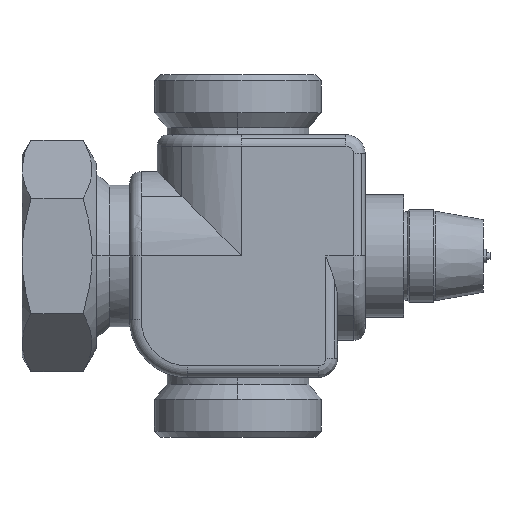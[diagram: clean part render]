
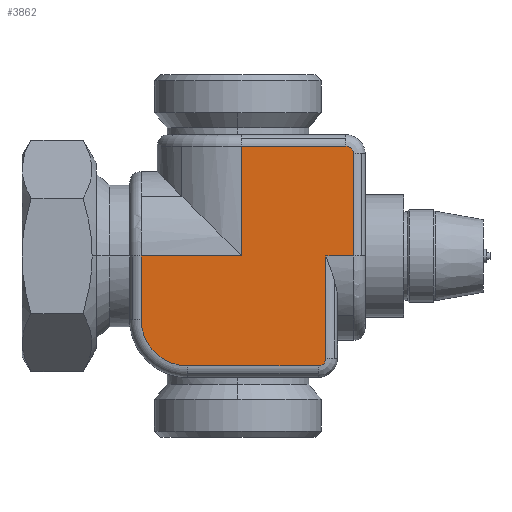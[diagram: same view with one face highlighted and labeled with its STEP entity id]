
A CAD part, left-side view. The second image highlights one B-rep face of the part: STEP entity #3862.
In plain terms, the highlighted planar face has unit normal (-1, 0, 0).
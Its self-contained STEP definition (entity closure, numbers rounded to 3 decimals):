
#3286=CARTESIAN_POINT('',(-24.551,-25.5,52.5));
#3287=VERTEX_POINT('',#3286);
#3299=CARTESIAN_POINT('',(-24.551,-25.5,22.941));
#3300=VERTEX_POINT('',#3299);
#3301=CARTESIAN_POINT('',(-24.551,-25.5,52.5));
#3302=DIRECTION('',(0.0,0.0,-1.0));
#3303=VECTOR('',#3302,29.559);
#3304=LINE('',#3301,#3303);
#3305=EDGE_CURVE('',#3287,#3300,#3304,.T.);
#3370=CARTESIAN_POINT('',(-24.551,-23.266,20.707));
#3371=VERTEX_POINT('',#3370);
#3372=CARTESIAN_POINT('',(-24.551,-23.266,22.941));
#3373=DIRECTION('',(1.,0.,0.));
#3374=DIRECTION('',(0.,-0.707,-0.707));
#3375=AXIS2_PLACEMENT_3D('',#3372,#3373,#3374);
#3376=CIRCLE('',#3375,2.234);
#3377=EDGE_CURVE('',#3300,#3371,#3376,.T.);
#3407=CARTESIAN_POINT('',(-24.551,14.594,20.707));
#3408=VERTEX_POINT('',#3407);
#3409=CARTESIAN_POINT('',(-24.551,-23.266,20.707));
#3410=DIRECTION('',(0.0,1.0,0.0));
#3411=VECTOR('',#3410,37.86);
#3412=LINE('',#3409,#3411);
#3413=EDGE_CURVE('',#3371,#3408,#3412,.T.);
#3430=CARTESIAN_POINT('',(-24.551,27.998,34.111));
#3431=VERTEX_POINT('',#3430);
#3432=CARTESIAN_POINT('',(-24.551,14.594,34.111));
#3433=DIRECTION('',(1.0,0.,0.));
#3434=DIRECTION('',(0.,0.707,-0.707));
#3435=AXIS2_PLACEMENT_3D('',#3432,#3433,#3434);
#3436=CIRCLE('',#3435,13.404);
#3437=EDGE_CURVE('',#3408,#3431,#3436,.T.);
#3461=CARTESIAN_POINT('',(-24.551,27.998,52.5));
#3462=VERTEX_POINT('',#3461);
#3463=CARTESIAN_POINT('',(-24.551,27.998,34.111));
#3464=DIRECTION('',(0.0,0.0,1.0));
#3465=VECTOR('',#3464,18.389);
#3466=LINE('',#3463,#3465);
#3467=EDGE_CURVE('',#3431,#3462,#3466,.T.);
#3803=CARTESIAN_POINT('',(-24.551,1.249,47.159));
#3804=DIRECTION('',(1.0,0.0,0.0));
#3805=DIRECTION('',(0.0,0.0,1.0));
#3806=AXIS2_PLACEMENT_3D('',#3803,#3804,#3805);
#3807=PLANE('',#3806);
#3808=CARTESIAN_POINT('',(-24.551,-33.485,52.5));
#3809=VERTEX_POINT('',#3808);
#3810=CARTESIAN_POINT('',(-24.551,-25.5,52.5));
#3811=DIRECTION('',(0.0,-1.0,0.0));
#3812=VECTOR('',#3811,7.985);
#3813=LINE('',#3810,#3812);
#3814=EDGE_CURVE('',#3287,#3809,#3813,.T.);
#3815=ORIENTED_EDGE('',*,*,#3814,.T.);
#3816=CARTESIAN_POINT('',(-24.551,-33.485,82.059));
#3817=VERTEX_POINT('',#3816);
#3818=CARTESIAN_POINT('',(-24.551,-33.485,82.059));
#3819=DIRECTION('',(0.0,0.0,-1.0));
#3820=VECTOR('',#3819,29.559);
#3821=LINE('',#3818,#3820);
#3822=EDGE_CURVE('',#3817,#3809,#3821,.T.);
#3823=ORIENTED_EDGE('',*,*,#3822,.F.);
#3824=CARTESIAN_POINT('',(-24.551,-31.251,84.293));
#3825=VERTEX_POINT('',#3824);
#3826=CARTESIAN_POINT('',(-24.551,-31.251,82.059));
#3827=DIRECTION('',(1.,0.,0.));
#3828=DIRECTION('',(0.,-0.707,0.707));
#3829=AXIS2_PLACEMENT_3D('',#3826,#3827,#3828);
#3830=CIRCLE('',#3829,2.234);
#3831=EDGE_CURVE('',#3825,#3817,#3830,.T.);
#3832=ORIENTED_EDGE('',*,*,#3831,.F.);
#3833=CARTESIAN_POINT('',(-24.551,-1.098,84.293));
#3834=VERTEX_POINT('',#3833);
#3835=CARTESIAN_POINT('',(-24.551,-1.098,84.293));
#3836=DIRECTION('',(0.0,-1.0,0.0));
#3837=VECTOR('',#3836,30.153);
#3838=LINE('',#3835,#3837);
#3839=EDGE_CURVE('',#3834,#3825,#3838,.T.);
#3840=ORIENTED_EDGE('',*,*,#3839,.F.);
#3841=CARTESIAN_POINT('',(-24.551,-1.098,52.5));
#3842=VERTEX_POINT('',#3841);
#3843=CARTESIAN_POINT('',(-24.551,-1.098,52.5));
#3844=DIRECTION('',(0.0,0.0,1.0));
#3845=VECTOR('',#3844,31.793);
#3846=LINE('',#3843,#3845);
#3847=EDGE_CURVE('',#3842,#3834,#3846,.T.);
#3848=ORIENTED_EDGE('',*,*,#3847,.F.);
#3849=CARTESIAN_POINT('',(-24.551,27.998,52.5));
#3850=DIRECTION('',(0.0,-1.0,0.0));
#3851=VECTOR('',#3850,29.096);
#3852=LINE('',#3849,#3851);
#3853=EDGE_CURVE('',#3462,#3842,#3852,.T.);
#3854=ORIENTED_EDGE('',*,*,#3853,.F.);
#3855=ORIENTED_EDGE('',*,*,#3467,.F.);
#3856=ORIENTED_EDGE('',*,*,#3437,.F.);
#3857=ORIENTED_EDGE('',*,*,#3413,.F.);
#3858=ORIENTED_EDGE('',*,*,#3377,.F.);
#3859=ORIENTED_EDGE('',*,*,#3305,.F.);
#3860=EDGE_LOOP('',(#3815,#3823,#3832,#3840,#3848,#3854,#3855,#3856,#3857,#3858,#3859));
#3861=FACE_OUTER_BOUND('',#3860,.T.);
#3862=ADVANCED_FACE('',(#3861),#3807,.F.);
